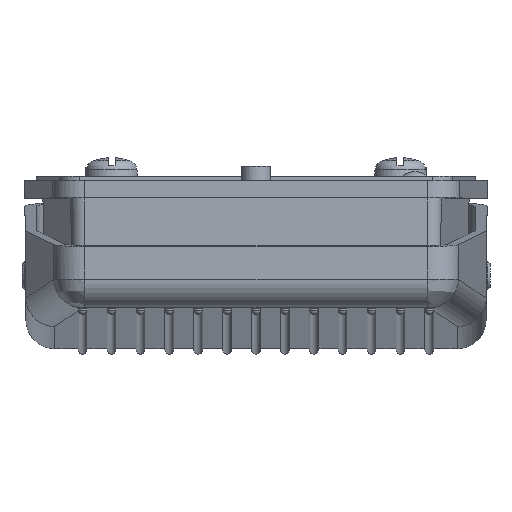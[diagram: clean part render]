
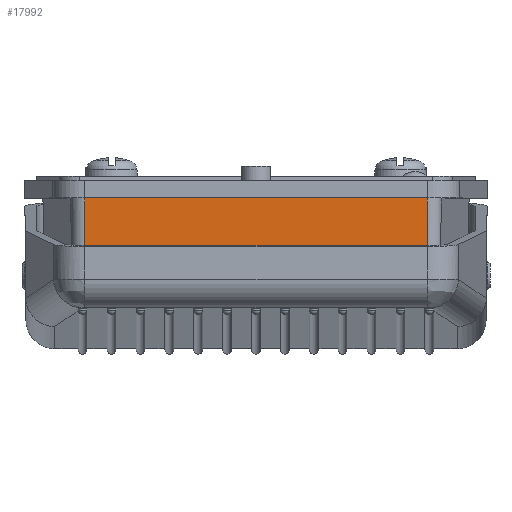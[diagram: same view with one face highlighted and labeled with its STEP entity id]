
A CAD part, top view. The second image highlights one B-rep face of the part: STEP entity #17992.
In plain terms, the highlighted planar face has unit normal (0, -0.009, 1).
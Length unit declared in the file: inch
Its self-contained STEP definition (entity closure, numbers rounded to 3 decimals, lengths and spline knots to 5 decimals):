
#1030=DIRECTION('',(-0.007,-1.,-0.009));
#1031=VECTOR('',#1030,0.34028);
#1032=CARTESIAN_POINT('',(2.74336,0.72147,
-0.12205));
#1033=LINE('',#1032,#1031);
#1034=DIRECTION('',(-1.,0.,0.));
#1035=VECTOR('',#1034,2.33204);
#1036=CARTESIAN_POINT('',(2.74082,0.38121,
-0.12502));
#1037=LINE('',#1036,#1035);
#1038=DIRECTION('',(-0.007,1.,0.009));
#1039=VECTOR('',#1038,0.34028);
#1040=CARTESIAN_POINT('',(0.40878,0.38121,
-0.12502));
#1041=LINE('',#1040,#1039);
#1042=DIRECTION('',(1.,0.,0.));
#1043=VECTOR('',#1042,2.33711);
#1044=CARTESIAN_POINT('',(0.40625,0.72147,
-0.12205));
#1045=LINE('',#1044,#1043);
#14968=CARTESIAN_POINT('',(0.40625,0.72147,
-0.12205));
#14969=CARTESIAN_POINT('',(2.74336,0.72147,
-0.12205));
#14970=VERTEX_POINT('',#14968);
#14971=VERTEX_POINT('',#14969);
#15032=CARTESIAN_POINT('',(2.74082,0.38121,
-0.12502));
#15033=CARTESIAN_POINT('',(0.40878,0.38121,
-0.12502));
#15034=VERTEX_POINT('',#15032);
#15035=VERTEX_POINT('',#15033);
#17979=CARTESIAN_POINT('',(1.5748,0.55134,
-0.12353));
#17980=DIRECTION('',(0.,-0.009,1.));
#17981=DIRECTION('',(1.,0.,0.));
#17982=AXIS2_PLACEMENT_3D('',#17979,#17980,#17981);
#17983=PLANE('',#17982);
#17985=ORIENTED_EDGE('',*,*,#17984,.T.);
#17987=ORIENTED_EDGE('',*,*,#17986,.T.);
#17988=ORIENTED_EDGE('',*,*,#17972,.T.);
#17989=ORIENTED_EDGE('',*,*,#17155,.T.);
#17990=EDGE_LOOP('',(#17985,#17987,#17988,#17989));
#17991=FACE_OUTER_BOUND('',#17990,.F.);
#17992=ADVANCED_FACE('',(#17991),#17983,.T.);
#17155=EDGE_CURVE('',#14970,#14971,#1045,.T.);
#17972=EDGE_CURVE('',#15035,#14970,#1041,.T.);
#17984=EDGE_CURVE('',#14971,#15034,#1033,.T.);
#17986=EDGE_CURVE('',#15034,#15035,#1037,.T.);
